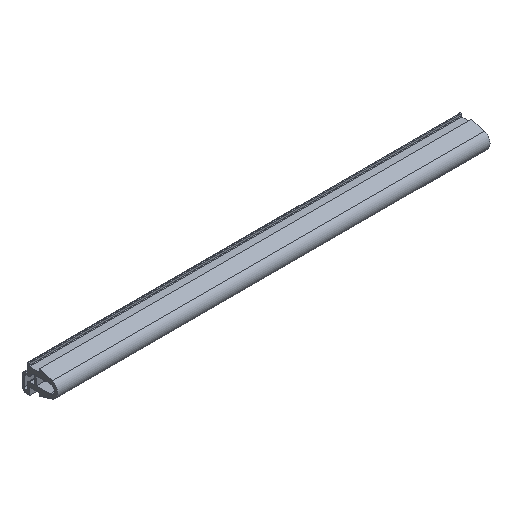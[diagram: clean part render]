
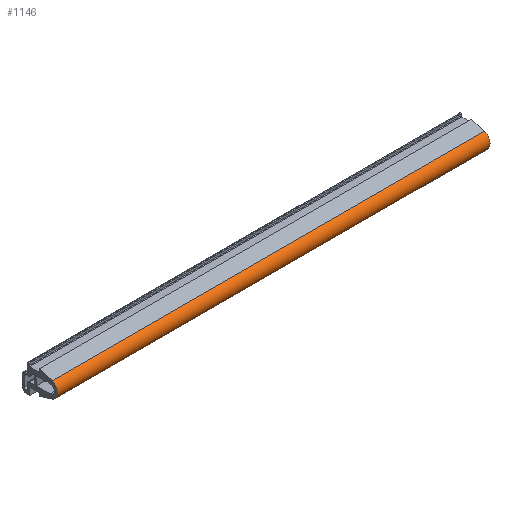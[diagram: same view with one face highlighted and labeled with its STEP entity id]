
A CAD part, isometric view. The second image highlights one B-rep face of the part: STEP entity #1146.
In plain terms, the highlighted cylindrical face has radius 4 mm (diameter 8 mm), a partial arc.
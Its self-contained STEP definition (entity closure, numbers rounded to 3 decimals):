
#6 = AXIS2_PLACEMENT_3D ( 'NONE', #688, #810, #993 ) ;
#29 = DIRECTION ( 'NONE',  ( 0., 0., -1. ) ) ;
#69 = ORIENTED_EDGE ( 'NONE', *, *, #1670, .F. ) ;
#96 = DIRECTION ( 'NONE',  ( -1., 0., 0. ) ) ;
#102 = CARTESIAN_POINT ( 'NONE',  ( 200., -5.926, 4.978 ) ) ;
#157 = CARTESIAN_POINT ( 'NONE',  ( 200., -4.447, 1.262 ) ) ;
#181 = EDGE_CURVE ( 'NONE', #1680, #1321, #454, .T. ) ;
#281 = FACE_OUTER_BOUND ( 'NONE', #709, .T. ) ;
#324 = CARTESIAN_POINT ( 'NONE',  ( 0., -4.447, 1.262 ) ) ;
#359 = ORIENTED_EDGE ( 'NONE', *, *, #181, .T. ) ;
#454 = CIRCLE ( 'NONE', #739, 4. ) ;
#476 = ORIENTED_EDGE ( 'NONE', *, *, #971, .F. ) ;
#501 = VERTEX_POINT ( 'NONE', #957 ) ;
#532 = CIRCLE ( 'NONE', #1309, 4. ) ;
#549 = DIRECTION ( 'NONE',  ( -1., 0., 0. ) ) ;
#688 = CARTESIAN_POINT ( 'NONE',  ( 200., -4.447, 1.262 ) ) ;
#693 = CARTESIAN_POINT ( 'NONE',  ( 200., -5.926, 4.978 ) ) ;
#709 = EDGE_LOOP ( 'NONE', ( #359, #476, #69, #872 ) ) ;
#739 = AXIS2_PLACEMENT_3D ( 'NONE', #324, #1298, #1176 ) ;
#810 = DIRECTION ( 'NONE',  ( -1., 0., 0. ) ) ;
#830 = CYLINDRICAL_SURFACE ( 'NONE', #6, 4. ) ;
#866 = VECTOR ( 'NONE', #96, 1000. ) ;
#872 = ORIENTED_EDGE ( 'NONE', *, *, #1293, .T. ) ;
#957 = CARTESIAN_POINT ( 'NONE',  ( 200., -5.926, -2.454 ) ) ;
#971 = EDGE_CURVE ( 'NONE', #501, #1321, #1463, .T. ) ;
#993 = DIRECTION ( 'NONE',  ( 0., 0., 1. ) ) ;
#1066 = CARTESIAN_POINT ( 'NONE',  ( 200., -5.926, -2.454 ) ) ;
#1146 = ADVANCED_FACE ( 'NONE', ( #281 ), #830, .T. ) ;
#1160 = VERTEX_POINT ( 'NONE', #102 ) ;
#1176 = DIRECTION ( 'NONE',  ( 0., 0., -1. ) ) ;
#1268 = DIRECTION ( 'NONE',  ( 1., 0., 0. ) ) ;
#1280 = CARTESIAN_POINT ( 'NONE',  ( 0., -5.926, 4.978 ) ) ;
#1293 = EDGE_CURVE ( 'NONE', #1160, #1680, #1639, .T. ) ;
#1298 = DIRECTION ( 'NONE',  ( 1., 0., 0. ) ) ;
#1309 = AXIS2_PLACEMENT_3D ( 'NONE', #157, #1268, #29 ) ;
#1321 = VERTEX_POINT ( 'NONE', #1494 ) ;
#1447 = VECTOR ( 'NONE', #549, 1000. ) ;
#1463 = LINE ( 'NONE', #1066, #866 ) ;
#1494 = CARTESIAN_POINT ( 'NONE',  ( 0., -5.926, -2.454 ) ) ;
#1639 = LINE ( 'NONE', #693, #1447 ) ;
#1670 = EDGE_CURVE ( 'NONE', #1160, #501, #532, .T. ) ;
#1680 = VERTEX_POINT ( 'NONE', #1280 ) ;
